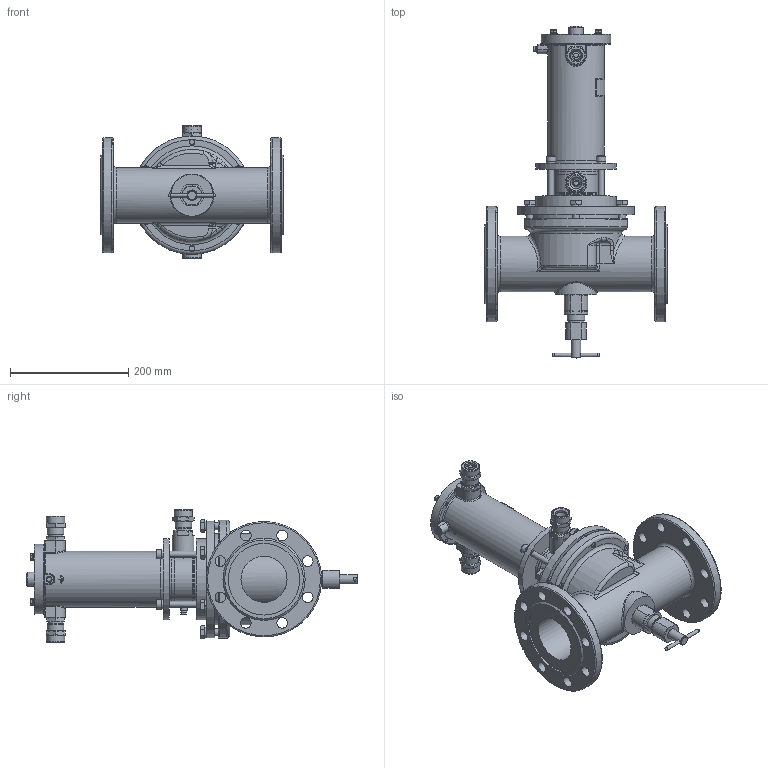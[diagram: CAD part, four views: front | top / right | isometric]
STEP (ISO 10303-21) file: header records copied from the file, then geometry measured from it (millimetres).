
FILE_DESCRIPTION(('STEP AP203'), '1');
FILE_NAME('ÑÅÍÑ-ÏÐ DN80PN25-ÄÏ1-ÑÂ.stp', '2018-10-09T08:06:08', ('Îðëîâ Å.Â.'), ('ÎÎÎ ÍÏÏ Ñåíñîð'), 'ASCON STEP Converter 1.3', 'Kompas 3D', '');
FILE_SCHEMA(('CONFIG_CONTROL_DESIGN','SUPPORT_RESOURCE_SCHEMA'));
Length unit declared in the file: millimetre
Products named in the file (1): 47
Bounding box: 308 x 561.66 x 225 mm (x, y, z)
Volume: 3577943 mm3; surface area: 830828 mm2
Topology: 3 solids, 29 shells, 2314 faces, 6027 edges, 3889 vertices
Faces by surface type: cylinder 1112, plane 887, cone 183, bspline 56, torus 52, extrusion 16, sphere 8
Full cylindrical faces by diameter (mm): 2.459 x1, 3.5 x2, 4.134 x6, 4.917 x4, 5 x2, 5.3 x1, 6 x9, 6.5 x4, 8 x10, 8.2 x1, 8.376 x4, 8.5 x1, 10 x6, 10.106 x6, 11 x5, 12 x12, 13 x10, 16 x6, 16.004 x2, 17 x2, 17.5 x1, 18 x17, 18.632 x2, 20 x4, 22 x2, 22.376 x2, 23 x2, 23.5 x3, 24 x4, 24.5 x2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
Entity records: 92319 total; most frequent: CARTESIAN_POINT 34537, DIRECTION 12427, ORIENTED_EDGE 11990, EDGE_CURVE 5995, AXIS2_PLACEMENT_3D 4816, VERTEX_POINT 3889, VECTOR 2795, LINE 2779
